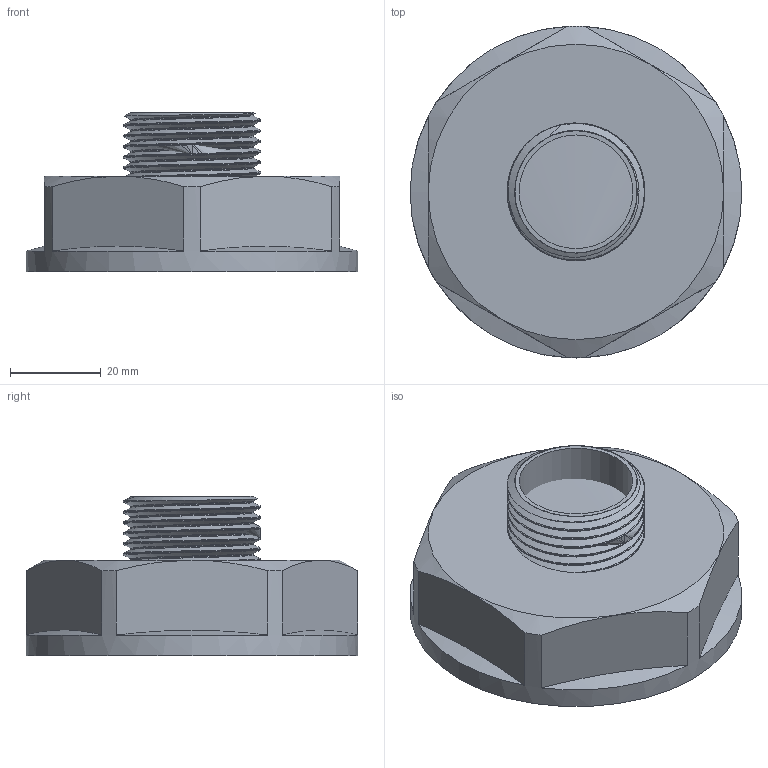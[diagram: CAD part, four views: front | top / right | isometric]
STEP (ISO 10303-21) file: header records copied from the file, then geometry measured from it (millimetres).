
FILE_DESCRIPTION(/* description */ (''),/* implementation_level */ '2;1');
FILE_NAME(/* name */ 'C:\Users\Doom\Desktop\Фадотех\Резьба\P10 18.03.2020\P10 18.03.2020.stp',/* time_stamp */ '2022-01-12T23:21:44+02:00',/* author */ ('Doom'),/* organization */ (''),/* preprocessor_version */ 'ST-DEVELOPER v18',/* originating_system */ 'Autodesk Inventor 2020',/* authorisation */ '');
FILE_SCHEMA (('AUTOMOTIVE_DESIGN { 1 0 10303 214 3 1 1 }'));
Length unit declared in the file: millimetre
Products named in the file (1): P10 18.03.2020
Bounding box: 73 x 73 x 35 mm (x, y, z)
Volume: 33239.2 mm3; surface area: 31110.9 mm2
Topology: 3 solids, 3 shells, 63 faces, 178 edges, 121 vertices
Faces by surface type: cylinder 22, cone 15, plane 14, bspline 12
Full cylindrical faces by diameter (mm): 25 x1, 26.866 x2, 30.29 x6, 56.176 x6, 59.6 x2, 73 x1
Entity records: 10224 total; most frequent: CARTESIAN_POINT 8745, ORIENTED_EDGE 348, DIRECTION 235, EDGE_CURVE 174, VERTEX_POINT 119, AXIS2_PLACEMENT_3D 101, EDGE_LOOP 71, B_SPLINE_CURVE_WITH_KNOTS 68
